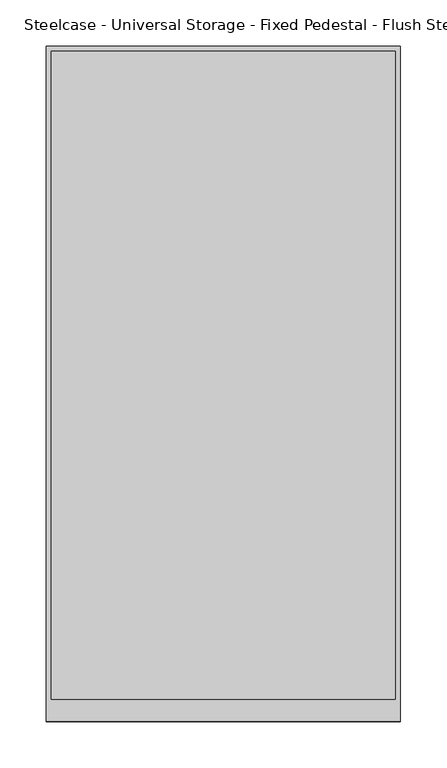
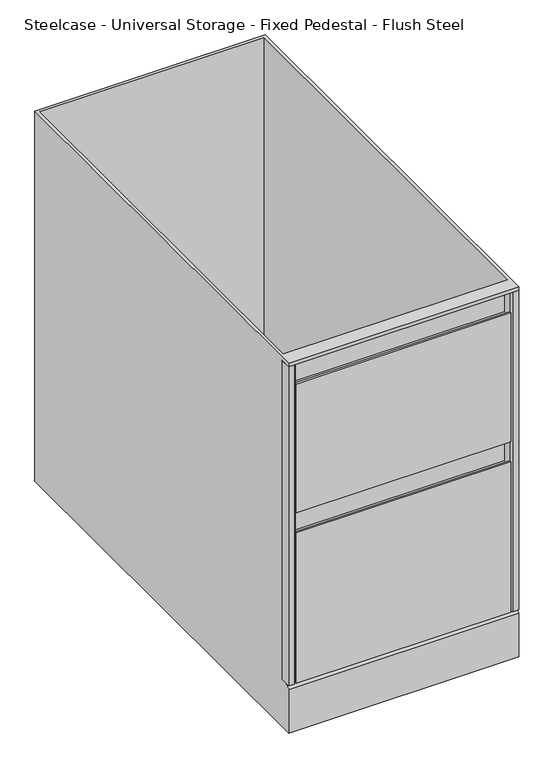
"""IFC4 building model written with IfcOpenShell, lengths in millimetres: furniture geometry, Steelcase - Universal Storage - Fixed Pedestal - Flush Steel : 2 File - 25 1/2H x 28 5/8D."""

from ifc_helpers import new_model, si_unit, frame, origin, place, context, project, spatial, polyline, outline, extrude, faceted_brep, source, transform, mapped, element, save


def steelcase_universal_storage_fixed_pedestal_flush_steel_c16aae42(model_context):
    return source(origin(), model_context, "Body", "SolidModel", [
        extrude(outline(polyline([(368.3000121, 0.0), (12.7000004, 0.0), (12.7000004, 3.1750001), (368.3000121, 3.1750001), (368.3000121, 0.0)])), frame((0.0, 0.0, 381.0000363), z_axis=(0.0, 0.0, 1.0), x_axis=(1.0, 0.0, 0.0)), (0.0, 0.0, 1.0), 225.4249394),
        extrude(outline(polyline([(368.3000121, 3.1750001), (12.7000004, 3.1750001), (12.7000004, 19.0495469), (368.3000121, 19.0495469), (368.3000121, 3.1750001)])), frame((0.0, 0.0, 82.550003), z_axis=(0.0, 0.0, 1.0), x_axis=(1.0, 0.0, 0.0)), (0.0, 0.0, 1.0), 254.000003),
        extrude(outline(polyline([(368.3000121, 3.1750001), (12.7000004, 3.1750001), (12.7000004, 19.0495469), (368.3000121, 19.0495469), (368.3000121, 3.1750001)])), frame((0.0, 0.0, 381.0000363), z_axis=(0.0, 0.0, 1.0), x_axis=(1.0, 0.0, 0.0)), (0.0, 0.0, 1.0), 101.7269637),
        extrude(outline(polyline([(368.3000121, 3.1750001), (12.7000004, 3.1750001), (12.7000004, 19.0495469), (368.3000121, 19.0495469), (368.3000121, 3.1750001)])), frame((0.0, 0.0, 492.1250121), z_axis=(0.0, 0.0, 1.0), x_axis=(1.0, 0.0, 0.0)), (0.0, 0.0, 1.0), 104.7749637),
        extrude(outline(polyline([(368.3000121, 0.0), (12.7000004, 0.0), (12.7000004, 3.1750001), (368.3000121, 3.1750001), (368.3000121, 0.0)])), frame((0.0, 0.0, 82.550003), z_axis=(0.0, 0.0, 1.0), x_axis=(1.0, 0.0, 0.0)), (0.0, 0.0, 1.0), 263.5249849),
        faceted_brep([(381.0, 0.0, 641.3500242), (381.0, 19.0495469, 641.3500242), (381.0, 19.0495469, 82.550003), (381.0, 6.350003, 82.550003), (381.0, 0.0, 76.2), (381.0, 0.0, 0.0), (381.0, 727.202, 0.0), (381.0, 727.202, 647.7), (381.0, 0.0, 647.7), (0.0, 0.0, 641.3500242), (0.0, 0.0, 647.7), (0.0, 727.202, 647.7), (0.0, 727.202, 0.0), (0.0, 0.0, 0.0), (0.0, 0.0, 76.2), (0.0, 6.350003, 82.550003), (0.0, 19.0495469, 82.550003), (0.0, 19.0495469, 641.3500242), (5.08, 722.122, 647.7), (375.92, 722.122, 647.7), (375.92, 24.1295469, 647.7), (5.08, 24.1295469, 647.7), (375.92, 722.122, 82.550003), (5.08, 722.122, 82.550003), (5.08, 24.1295469, 82.550003), (375.92, 24.1295469, 82.550003)], [[[0, 1, 2, 3, 4, 5, 6, 7, 8]], [[9, 10, 11, 12, 13, 14, 15, 16, 17]], [[1, 0, 9, 17]], [[2, 1, 17, 16]], [[2, 16, 15, 3]], [[13, 5, 4, 14]], [[6, 5, 13, 12]], [[7, 6, 12, 11]], [[8, 7, 11, 10], [18, 19, 20, 21]], [[0, 8, 10, 9]], [[4, 3, 15, 14]], [[22, 23, 24, 25]], [[23, 22, 19, 18]], [[24, 23, 18, 21]], [[25, 24, 21, 20]], [[22, 25, 20, 19]]]),
        extrude(outline(polyline([(12.7000004, 19.0495469), (12.7000004, 3.1750001), (9.5250003, 0.0), (0.0, 0.0), (0.0, 19.0495469), (12.7000004, 19.0495469)])), frame((0.0, 0.0, 82.550003), z_axis=(0.0, 0.0, 1.0), x_axis=(1.0, 0.0, 0.0)), (0.0, 0.0, 1.0), 558.8000212),
        extrude(outline(polyline([(381.0000125, 19.0495469), (381.0000125, 0.0), (371.4750122, 0.0), (368.3000121, 3.1750001), (368.3000121, 19.0495469), (381.0000125, 19.0495469)])), frame((0.0, 0.0, 82.550003), z_axis=(0.0, 0.0, 1.0), x_axis=(1.0, 0.0, 0.0)), (0.0, 0.0, 1.0), 558.8000212),
    ])


if __name__ == "__main__":
    model = new_model("IFC4")
    model_context = context("Model", 3, world=origin())
    ifc_project = project(units=[si_unit("LENGTHUNIT", "METRE", prefix="MILLI")], contexts=[model_context])
    site = spatial("IfcSite", under=ifc_project)
    building = spatial("IfcBuilding", under=site)
    placement = place(None, origin())
    steelcase_universal_storage_fixed_pedestal_flush_steel_shape = steelcase_universal_storage_fixed_pedestal_flush_steel_c16aae42(model_context)
    element("IfcFurniture", 1, ObjectType="Steelcase - Universal Storage - Fixed Pedestal - Flush Steel : 2 File - 25 1/2H x 28 5/8D", at=placement, inside=building, context=model_context, shape_type="MappedRepresentation", body=[
        mapped(steelcase_universal_storage_fixed_pedestal_flush_steel_shape, transform((0.0, 0.0, 0.0), x_axis=(1.0, 0.0, 0.0), y_axis=(0.0, 1.0, 0.0), z_axis=(0.0, 0.0, 1.0))),
    ])
    save(model, "model.ifc")
